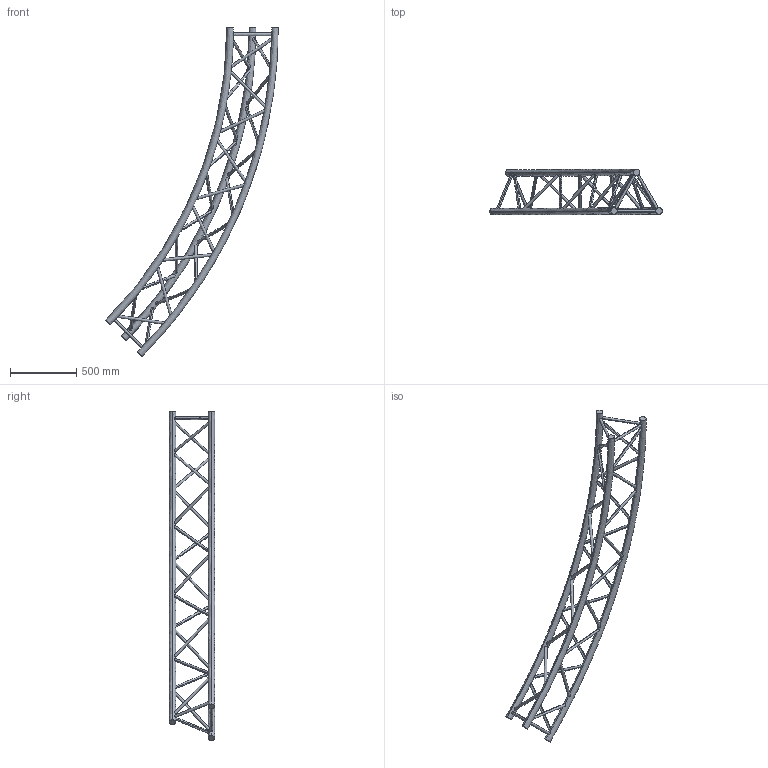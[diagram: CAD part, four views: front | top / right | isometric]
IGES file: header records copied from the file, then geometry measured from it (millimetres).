
Start section: SolidWorks IGES file using analytic representation for surfaces
Global section: file name: K:\BIBLIO\asd_biblio\SX390\Cercles\SXC39PH\SXC39700PH\SXC39700PH.IGS; native system: SolidWorks 2009; preprocessor: SolidWorks 2009; author: des3; date: 091021.132801; units: millimetre
Bounding box: 1298.78 x 341.85 x 2474.87 mm (x, y, z)
Surface area: 1941457.5 mm2 (no closed solid volume)
Topology: 0 solids, 0 shells, 78 faces, 5629 edges, 5629 vertices
Faces by surface type: revolution 66, bspline 12
